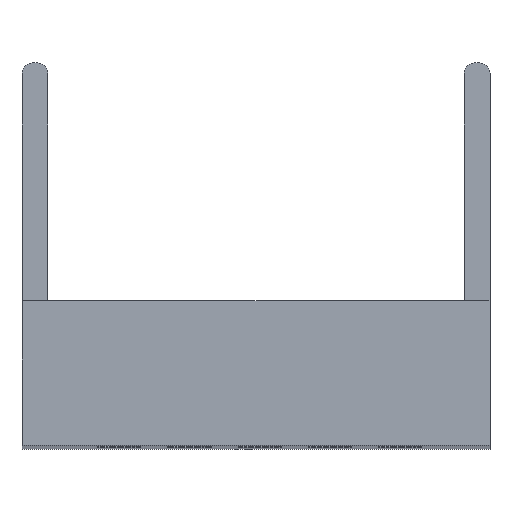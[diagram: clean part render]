
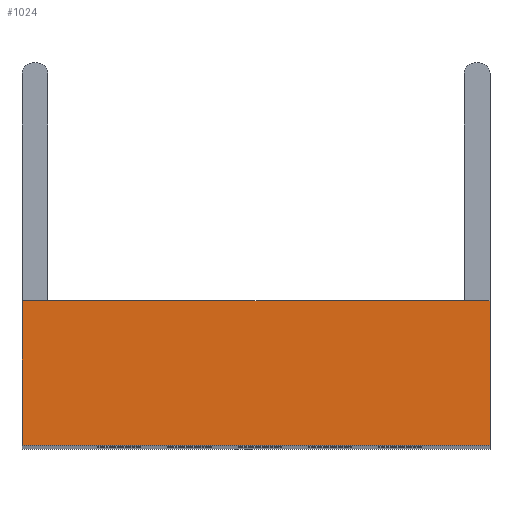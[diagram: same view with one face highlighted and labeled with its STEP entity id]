
A CAD part, top view. The second image highlights one B-rep face of the part: STEP entity #1024.
In plain terms, the highlighted planar face has unit normal (0, 0, 1).
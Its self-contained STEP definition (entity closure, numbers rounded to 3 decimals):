
#32 = PLANE('',#33);
#33 = AXIS2_PLACEMENT_3D('',#34,#35,#36);
#34 = CARTESIAN_POINT('',(68.,-3.,14.));
#35 = DIRECTION('',(1.,0.,0.));
#36 = DIRECTION('',(0.,0.,1.));
#57 = VERTEX_POINT('',#58);
#58 = CARTESIAN_POINT('',(68.,10.4,201.4));
#72 = PLANE('',#73);
#73 = AXIS2_PLACEMENT_3D('',#74,#75,#76);
#74 = CARTESIAN_POINT('',(68.,10.4,196.39));
#75 = DIRECTION('',(0.,1.,0.));
#76 = DIRECTION('',(0.,0.,1.));
#84 = EDGE_CURVE('',#85,#57,#87,.T.);
#85 = VERTEX_POINT('',#86);
#86 = CARTESIAN_POINT('',(68.,-3.,201.4));
#87 = SURFACE_CURVE('',#88,(#92,#99),.PCURVE_S1.);
#88 = LINE('',#89,#90);
#89 = CARTESIAN_POINT('',(68.,-3.,201.4));
#90 = VECTOR('',#91,1.);
#91 = DIRECTION('',(0.,1.,0.));
#92 = PCURVE('',#32,#93);
#93 = DEFINITIONAL_REPRESENTATION('',(#94),#98);
#94 = LINE('',#95,#96);
#95 = CARTESIAN_POINT('',(187.4,0.));
#96 = VECTOR('',#97,1.);
#97 = DIRECTION('',(0.,-1.));
#98 = ( GEOMETRIC_REPRESENTATION_CONTEXT(2) 
PARAMETRIC_REPRESENTATION_CONTEXT() REPRESENTATION_CONTEXT('2D SPACE',''
  ) );
#99 = PCURVE('',#100,#105);
#100 = PLANE('',#101);
#101 = AXIS2_PLACEMENT_3D('',#102,#103,#104);
#102 = CARTESIAN_POINT('',(68.,-3.,201.4));
#103 = DIRECTION('',(0.,0.,1.));
#104 = DIRECTION('',(1.,0.,0.));
#105 = DEFINITIONAL_REPRESENTATION('',(#106),#110);
#106 = LINE('',#107,#108);
#107 = CARTESIAN_POINT('',(0.,0.));
#108 = VECTOR('',#109,1.);
#109 = DIRECTION('',(0.,1.));
#110 = ( GEOMETRIC_REPRESENTATION_CONTEXT(2) 
PARAMETRIC_REPRESENTATION_CONTEXT() REPRESENTATION_CONTEXT('2D SPACE',''
  ) );
#128 = PLANE('',#129);
#129 = AXIS2_PLACEMENT_3D('',#130,#131,#132);
#130 = CARTESIAN_POINT('',(68.,-3.,14.));
#131 = DIRECTION('',(0.,1.,0.));
#132 = DIRECTION('',(0.,0.,1.));
#629 = EDGE_CURVE('',#630,#57,#632,.T.);
#630 = VERTEX_POINT('',#631);
#631 = CARTESIAN_POINT('',(111.3,10.4,201.4));
#632 = SURFACE_CURVE('',#633,(#637,#644),.PCURVE_S1.);
#633 = LINE('',#634,#635);
#634 = CARTESIAN_POINT('',(111.3,10.4,201.4));
#635 = VECTOR('',#636,1.);
#636 = DIRECTION('',(-1.,0.,0.));
#637 = PCURVE('',#72,#638);
#638 = DEFINITIONAL_REPRESENTATION('',(#639),#643);
#639 = LINE('',#640,#641);
#640 = CARTESIAN_POINT('',(5.01,43.3));
#641 = VECTOR('',#642,1.);
#642 = DIRECTION('',(0.,-1.));
#643 = ( GEOMETRIC_REPRESENTATION_CONTEXT(2) 
PARAMETRIC_REPRESENTATION_CONTEXT() REPRESENTATION_CONTEXT('2D SPACE',''
  ) );
#644 = PCURVE('',#100,#645);
#645 = DEFINITIONAL_REPRESENTATION('',(#646),#650);
#646 = LINE('',#647,#648);
#647 = CARTESIAN_POINT('',(43.3,13.4));
#648 = VECTOR('',#649,1.);
#649 = DIRECTION('',(-1.,0.));
#650 = ( GEOMETRIC_REPRESENTATION_CONTEXT(2) 
PARAMETRIC_REPRESENTATION_CONTEXT() REPRESENTATION_CONTEXT('2D SPACE',''
  ) );
#668 = PLANE('',#669);
#669 = AXIS2_PLACEMENT_3D('',#670,#671,#672);
#670 = CARTESIAN_POINT('',(111.3,-3.,14.));
#671 = DIRECTION('',(1.,0.,0.));
#672 = DIRECTION('',(0.,0.,1.));
#1024 = ADVANCED_FACE('',(#1025),#100,.T.);
#1025 = FACE_BOUND('',#1026,.T.);
#1026 = EDGE_LOOP('',(#1027,#1028,#1051,#1072));
#1027 = ORIENTED_EDGE('',*,*,#84,.F.);
#1028 = ORIENTED_EDGE('',*,*,#1029,.T.);
#1029 = EDGE_CURVE('',#85,#1030,#1032,.T.);
#1030 = VERTEX_POINT('',#1031);
#1031 = CARTESIAN_POINT('',(111.3,-3.,201.4));
#1032 = SURFACE_CURVE('',#1033,(#1037,#1044),.PCURVE_S1.);
#1033 = LINE('',#1034,#1035);
#1034 = CARTESIAN_POINT('',(68.,-3.,201.4));
#1035 = VECTOR('',#1036,1.);
#1036 = DIRECTION('',(1.,0.,0.));
#1037 = PCURVE('',#100,#1038);
#1038 = DEFINITIONAL_REPRESENTATION('',(#1039),#1043);
#1039 = LINE('',#1040,#1041);
#1040 = CARTESIAN_POINT('',(0.,0.));
#1041 = VECTOR('',#1042,1.);
#1042 = DIRECTION('',(1.,0.));
#1043 = ( GEOMETRIC_REPRESENTATION_CONTEXT(2) 
PARAMETRIC_REPRESENTATION_CONTEXT() REPRESENTATION_CONTEXT('2D SPACE',''
  ) );
#1044 = PCURVE('',#128,#1045);
#1045 = DEFINITIONAL_REPRESENTATION('',(#1046),#1050);
#1046 = LINE('',#1047,#1048);
#1047 = CARTESIAN_POINT('',(187.4,0.));
#1048 = VECTOR('',#1049,1.);
#1049 = DIRECTION('',(0.,1.));
#1050 = ( GEOMETRIC_REPRESENTATION_CONTEXT(2) 
PARAMETRIC_REPRESENTATION_CONTEXT() REPRESENTATION_CONTEXT('2D SPACE',''
  ) );
#1051 = ORIENTED_EDGE('',*,*,#1052,.T.);
#1052 = EDGE_CURVE('',#1030,#630,#1053,.T.);
#1053 = SURFACE_CURVE('',#1054,(#1058,#1065),.PCURVE_S1.);
#1054 = LINE('',#1055,#1056);
#1055 = CARTESIAN_POINT('',(111.3,-3.,201.4));
#1056 = VECTOR('',#1057,1.);
#1057 = DIRECTION('',(0.,1.,0.));
#1058 = PCURVE('',#100,#1059);
#1059 = DEFINITIONAL_REPRESENTATION('',(#1060),#1064);
#1060 = LINE('',#1061,#1062);
#1061 = CARTESIAN_POINT('',(43.3,0.));
#1062 = VECTOR('',#1063,1.);
#1063 = DIRECTION('',(0.,1.));
#1064 = ( GEOMETRIC_REPRESENTATION_CONTEXT(2) 
PARAMETRIC_REPRESENTATION_CONTEXT() REPRESENTATION_CONTEXT('2D SPACE',''
  ) );
#1065 = PCURVE('',#668,#1066);
#1066 = DEFINITIONAL_REPRESENTATION('',(#1067),#1071);
#1067 = LINE('',#1068,#1069);
#1068 = CARTESIAN_POINT('',(187.4,0.));
#1069 = VECTOR('',#1070,1.);
#1070 = DIRECTION('',(0.,-1.));
#1071 = ( GEOMETRIC_REPRESENTATION_CONTEXT(2) 
PARAMETRIC_REPRESENTATION_CONTEXT() REPRESENTATION_CONTEXT('2D SPACE',''
  ) );
#1072 = ORIENTED_EDGE('',*,*,#629,.T.);
